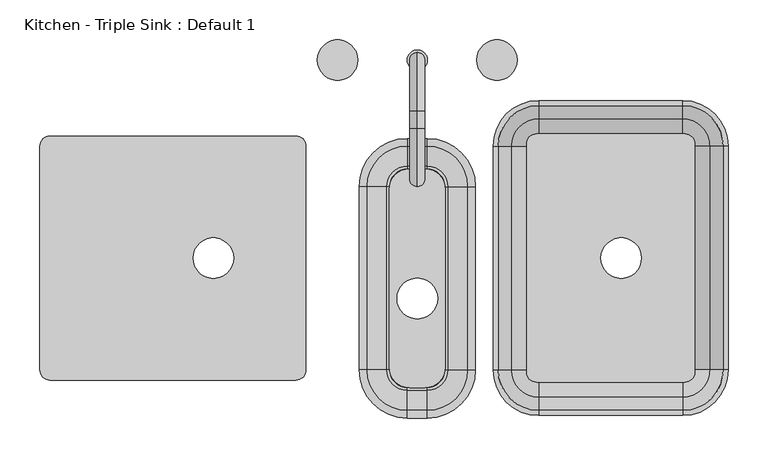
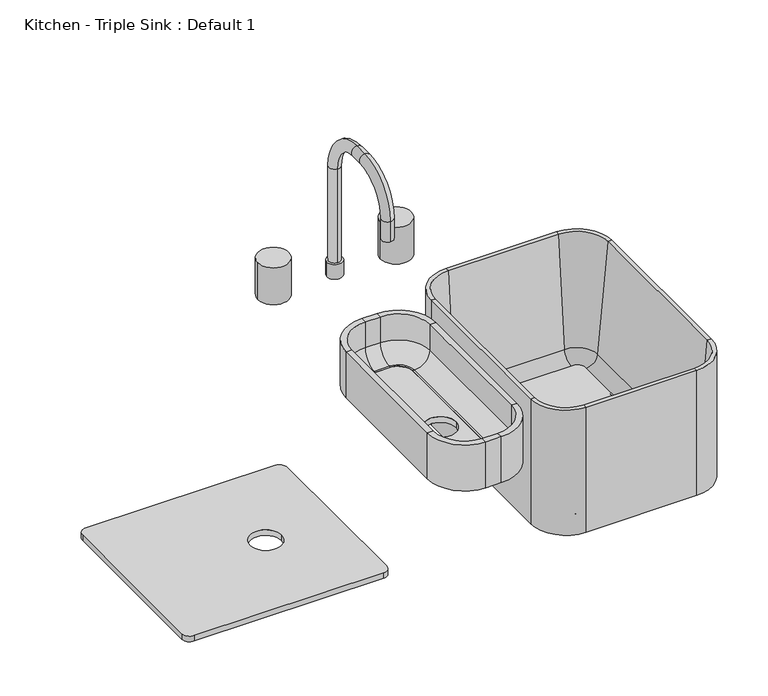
"""IFC4 building model written with IfcOpenShell, lengths in millimetres: flow terminal geometry, Kitchen - Triple Sink : Default 1."""

from ifc_helpers import new_model, si_unit, point, frame, frame_2d, origin, place, context, project, spatial, polyline, circle_curve, ellipse_curve, trimmed, segment, composite_curve, outline, extrude, source, transform, mapped, element, save
from ifc_brep_helpers import plane_surface, cylinder_surface, revolved_surface, advanced_brep


def kitchen_triple_sink_default_1_10f32469(model_context):
    return source(origin(), model_context, "Body", "SolidModel", [
        extrude(outline(composite_curve([segment(trimmed(circle_curve(frame_2d((166.0186503, 48.425)), 25.4), [point((166.0186503, 73.825))], [point((191.4186503, 48.425))], False, "CARTESIAN"), True, "CONTINUOUS"), segment(polyline([(191.4186503, 48.425), (191.4186503, -175.425)]), True, "CONTINUOUS"), segment(trimmed(circle_curve(frame_2d((166.0186503, -175.425)), 25.4), [point((191.4186503, -175.425))], [point((166.0186503, -200.825))], False, "CARTESIAN"), True, "CONTINUOUS"), segment(polyline([(166.0186503, -200.825), (146.9686503, -200.825)]), True, "CONTINUOUS"), segment(trimmed(circle_curve(frame_2d((146.9686503, -175.425)), 25.4), [point((146.9686503, -200.825))], [point((121.5686503, -175.425))], False, "CARTESIAN"), True, "CONTINUOUS"), segment(polyline([(121.5686503, -175.425), (121.5686503, 48.425)]), True, "CONTINUOUS"), segment(trimmed(circle_curve(frame_2d((146.9686503, 48.425)), 25.4), [point((121.5686503, 48.425))], [point((146.9686503, 73.825))], False, "CARTESIAN"), True, "CONTINUOUS"), segment(polyline([(146.9686503, 73.825), (166.0186503, 73.825)]), True, "CONTINUOUS")], self_intersect=False), holes=[composite_curve([segment(trimmed(circle_curve(frame_2d((156.4936503, -88.9)), 25.4), [point((131.0936503, -88.9))], [point((181.8936503, -88.9))], True, "CARTESIAN"), True, "CONTINUOUS"), segment(trimmed(circle_curve(frame_2d((156.4936503, -88.9)), 25.4), [point((181.8936503, -88.9))], [point((131.0936503, -88.9))], True, "CARTESIAN"), True, "CONTINUOUS")], self_intersect=False)]), frame((0.0, 0.0, 835.025), z_axis=(0.0, 0.0, 1.0), x_axis=(1.0, 0.0, 0.0)), (0.0, 0.0, 1.0), 9.525),
        advanced_brep(
        [(219.9936503, 51.6, 914.4), (169.1936503, 102.4, 914.4), (169.1936503, 102.4, 869.95), (219.9936503, 51.6, 869.95), (229.5186503, 51.6, 914.4), (169.1936503, 111.925, 914.4), (229.5186503, 51.6, 835.025), (169.1936503, 111.925, 835.025), (191.4186503, 51.6, 835.025), (169.1936503, 73.825, 835.025), (191.4186503, 51.6, 844.55), (169.1936503, 73.825, 844.55), (194.5936503, 51.6, 844.55), (169.1936503, 77.0, 844.55), (219.9936503, -178.6, 869.95), (219.9936503, -178.6, 914.4), (229.5186503, -178.6, 914.4), (229.5186503, -178.6, 835.025), (191.4186503, -178.6, 835.025), (191.4186503, -178.6, 844.55), (194.5936503, -178.6, 844.55), (169.1936503, -229.4, 914.4), (169.1936503, -229.4, 869.95), (169.1936503, -238.925, 914.4), (169.1936503, -238.925, 835.025), (169.1936503, -200.825, 835.025), (169.1936503, -200.825, 844.55), (169.1936503, -204.0, 844.55), (143.7936503, -229.4, 869.95), (143.7936503, -229.4, 914.4), (143.7936503, -238.925, 914.4), (143.7936503, -238.925, 835.025), (143.7936503, -200.825, 835.025), (143.7936503, -200.825, 844.55), (143.7936503, -204.0, 844.55), (92.9936503, -178.6, 914.4), (92.9936503, -178.6, 869.95), (83.4686503, -178.6, 914.4), (83.4686503, -178.6, 835.025), (121.5686503, -178.6, 835.025), (121.5686503, -178.6, 844.55), (118.3936503, -178.6, 844.55), (92.9936503, 51.6, 869.95), (92.9936503, 51.6, 914.4), (83.4686503, 51.6, 914.4), (83.4686503, 51.6, 835.025), (121.5686503, 51.6, 835.025), (121.5686503, 51.6, 844.55), (118.3936503, 51.6, 844.55), (143.7936503, 102.4, 914.4), (143.7936503, 102.4, 869.95), (143.7936503, 111.925, 914.4), (143.7936503, 111.925, 835.025), (143.7936503, 73.825, 835.025), (143.7936503, 73.825, 844.55), (143.7936503, 77.0, 844.55)],
        [
            (0, 1, circle_curve(frame((169.1936503, 51.6, 914.4), z_axis=(0.0, 0.0, 1.0), x_axis=(0.0, 1.0, 0.0)), 50.8)),
            (1, 2),
            (2, 3, circle_curve(frame((169.1936503, 51.6, 869.95), z_axis=(0.0, 0.0, -1.0), x_axis=(0.0, 1.0, 0.0)), 50.8)),
            (3, 0),
            (4, 5, circle_curve(frame((169.1936503, 51.6, 914.4), z_axis=(0.0, 0.0, 1.0), x_axis=(0.0, 1.0, 0.0)), 60.325)),
            (5, 1),
            (0, 4),
            (6, 7, circle_curve(frame((169.1936503, 51.6, 835.025), z_axis=(0.0, 0.0, 1.0), x_axis=(0.0, 1.0, 0.0)), 60.325)),
            (7, 5),
            (4, 6),
            (8, 9, circle_curve(frame((169.1936503, 51.6, 835.025), z_axis=(0.0, 0.0, 1.0), x_axis=(0.0, 1.0, 0.0)), 22.225)),
            (9, 7),
            (6, 8),
            (10, 11, circle_curve(frame((169.1936503, 51.6, 844.55), z_axis=(0.0, 0.0, 1.0), x_axis=(0.0, 1.0, 0.0)), 22.225)),
            (11, 9),
            (8, 10),
            (12, 13, circle_curve(frame((169.1936503, 51.6, 844.55), z_axis=(0.0, 0.0, 1.0), x_axis=(0.0, 1.0, 0.0)), 25.4)),
            (13, 11),
            (10, 12),
            (2, 13, circle_curve(frame((169.1936503, 77.0, 869.95), z_axis=(-1.0, 0.0, 0.0), x_axis=(0.0, 1.0, 0.0)), 25.4)),
            (12, 3, circle_curve(frame((194.5936503, 51.6, 869.95), z_axis=(0.0, -1.0, 0.0), x_axis=(1.0, 0.0, 0.0)), 25.4)),
            (3, 14),
            (14, 15),
            (15, 0),
            (15, 16),
            (16, 4),
            (16, 17),
            (17, 6),
            (17, 18),
            (18, 8),
            (18, 19),
            (19, 10),
            (19, 20),
            (20, 12),
            (20, 14, circle_curve(frame((194.5936503, -178.6, 869.95), z_axis=(0.0, -1.0, 0.0), x_axis=(1.0, 0.0, 0.0)), 25.4)),
            (21, 15, circle_curve(frame((169.1936503, -178.6, 914.4), z_axis=(0.0, 0.0, 1.0), x_axis=(1.0, 0.0, 0.0)), 50.8)),
            (14, 22, circle_curve(frame((169.1936503, -178.6, 869.95), z_axis=(0.0, 0.0, -1.0), x_axis=(1.0, 0.0, 0.0)), 50.8)),
            (22, 21),
            (23, 16, circle_curve(frame((169.1936503, -178.6, 914.4), z_axis=(0.0, 0.0, 1.0), x_axis=(1.0, 0.0, 0.0)), 60.325)),
            (21, 23),
            (24, 17, circle_curve(frame((169.1936503, -178.6, 835.025), z_axis=(0.0, 0.0, 1.0), x_axis=(1.0, 0.0, 0.0)), 60.325)),
            (23, 24),
            (25, 18, circle_curve(frame((169.1936503, -178.6, 835.025), z_axis=(0.0, 0.0, 1.0), x_axis=(1.0, 0.0, 0.0)), 22.225)),
            (24, 25),
            (26, 19, circle_curve(frame((169.1936503, -178.6, 844.55), z_axis=(0.0, 0.0, 1.0), x_axis=(1.0, 0.0, 0.0)), 22.225)),
            (25, 26),
            (27, 20, circle_curve(frame((169.1936503, -178.6, 844.55), z_axis=(0.0, 0.0, 1.0), x_axis=(1.0, 0.0, 0.0)), 25.4)),
            (26, 27),
            (27, 22, circle_curve(frame((169.1936503, -204.0, 869.95), z_axis=(-1.0, 0.0, 0.0), x_axis=(0.0, -1.0, 0.0)), 25.4)),
            (22, 28),
            (28, 29),
            (29, 21),
            (29, 30),
            (30, 23),
            (30, 31),
            (31, 24),
            (31, 32),
            (32, 25),
            (32, 33),
            (33, 26),
            (33, 34),
            (34, 27),
            (34, 28, circle_curve(frame((143.7936503, -204.0, 869.95), z_axis=(-1.0, 0.0, 0.0), x_axis=(0.0, -1.0, 0.0)), 25.4)),
            (35, 29, circle_curve(frame((143.7936503, -178.6, 914.4), z_axis=(0.0, 0.0, 1.0), x_axis=(0.0, -1.0, 0.0)), 50.8)),
            (28, 36, circle_curve(frame((143.7936503, -178.6, 869.95), z_axis=(0.0, 0.0, -1.0), x_axis=(0.0, -1.0, 0.0)), 50.8)),
            (36, 35),
            (37, 30, circle_curve(frame((143.7936503, -178.6, 914.4), z_axis=(0.0, 0.0, 1.0), x_axis=(0.0, -1.0, 0.0)), 60.325)),
            (35, 37),
            (38, 31, circle_curve(frame((143.7936503, -178.6, 835.025), z_axis=(0.0, 0.0, 1.0), x_axis=(0.0, -1.0, 0.0)), 60.325)),
            (37, 38),
            (39, 32, circle_curve(frame((143.7936503, -178.6, 835.025), z_axis=(0.0, 0.0, 1.0), x_axis=(0.0, -1.0, 0.0)), 22.225)),
            (38, 39),
            (40, 33, circle_curve(frame((143.7936503, -178.6, 844.55), z_axis=(0.0, 0.0, 1.0), x_axis=(0.0, -1.0, 0.0)), 22.225)),
            (39, 40),
            (41, 34, circle_curve(frame((143.7936503, -178.6, 844.55), z_axis=(0.0, 0.0, 1.0), x_axis=(0.0, -1.0, 0.0)), 25.4)),
            (40, 41),
            (41, 36, circle_curve(frame((118.3936503, -178.6, 869.95), z_axis=(0.0, 1.0, 0.0), x_axis=(-1.0, 0.0, 0.0)), 25.4)),
            (36, 42),
            (42, 43),
            (43, 35),
            (43, 44),
            (44, 37),
            (44, 45),
            (45, 38),
            (45, 46),
            (46, 39),
            (46, 47),
            (47, 40),
            (47, 48),
            (48, 41),
            (48, 42, circle_curve(frame((118.3936503, 51.6, 869.95), z_axis=(0.0, 1.0, 0.0), x_axis=(-1.0, 0.0, 0.0)), 25.4)),
            (49, 43, circle_curve(frame((143.7936503, 51.6, 914.4), z_axis=(0.0, 0.0, 1.0), x_axis=(-1.0, 0.0, 0.0)), 50.8)),
            (42, 50, circle_curve(frame((143.7936503, 51.6, 869.95), z_axis=(0.0, 0.0, -1.0), x_axis=(-1.0, 0.0, 0.0)), 50.8)),
            (50, 49),
            (51, 44, circle_curve(frame((143.7936503, 51.6, 914.4), z_axis=(0.0, 0.0, 1.0), x_axis=(-1.0, 0.0, 0.0)), 60.325)),
            (49, 51),
            (52, 45, circle_curve(frame((143.7936503, 51.6, 835.025), z_axis=(0.0, 0.0, 1.0), x_axis=(-1.0, 0.0, 0.0)), 60.325)),
            (51, 52),
            (53, 46, circle_curve(frame((143.7936503, 51.6, 835.025), z_axis=(0.0, 0.0, 1.0), x_axis=(-1.0, 0.0, 0.0)), 22.225)),
            (52, 53),
            (54, 47, circle_curve(frame((143.7936503, 51.6, 844.55), z_axis=(0.0, 0.0, 1.0), x_axis=(-1.0, 0.0, 0.0)), 22.225)),
            (53, 54),
            (55, 48, circle_curve(frame((143.7936503, 51.6, 844.55), z_axis=(0.0, 0.0, 1.0), x_axis=(-1.0, 0.0, 0.0)), 25.4)),
            (54, 55),
            (55, 50, circle_curve(frame((143.7936503, 77.0, 869.95), z_axis=(1.0, 0.0, 0.0), x_axis=(0.0, 1.0, 0.0)), 25.4)),
            (50, 2),
            (1, 49),
            (5, 51),
            (7, 52),
            (9, 53),
            (11, 54),
            (13, 55),
        ],
        [
            revolved_surface(polyline([(169.1936503, 102.4, 869.95), (169.1936503, 102.4, 914.4)]), (169.1936503, 51.6, 14.4), (0.0, 0.0, -1.0)),
            plane_surface(frame((169.1936503, 51.6, 914.4), z_axis=(0.0, 0.0, 1.0), x_axis=(0.0, 1.0, 0.0))),
            cylinder_surface(frame((169.1936503, 51.6, 14.4), z_axis=(0.0, 0.0, -1.0), x_axis=(0.0, 1.0, 0.0)), 60.325),
            plane_surface(frame((169.1936503, 51.6, 835.025), z_axis=(0.0, 0.0, -1.0), x_axis=(0.0, 1.0, 0.0))),
            revolved_surface(polyline([(169.1936503, 73.825, 835.025), (169.1936503, 73.825, 844.55)]), (169.1936503, 51.6, 14.4), (0.0, 0.0, -1.0)),
            plane_surface(frame((169.1936503, 51.6, 844.55), z_axis=(0.0, 0.0, 1.0), x_axis=(0.0, 1.0, 0.0))),
            revolved_surface(trimmed(ellipse_curve(frame((169.1936503, 77.0, 869.95), z_axis=(1.0, 0.0, 0.0), x_axis=(0.0, 1.0, 0.0)), 25.4, 25.4), [point((169.1936503, 77.0, 844.55))], [point((169.1936503, 102.4, 869.95))], True, "CARTESIAN"), (169.1936503, 51.6, 14.4), (0.0, 0.0, -1.0)),
            plane_surface(frame((219.9936503, 51.6, 869.95), z_axis=(-1.0, 0.0, 0.0), x_axis=(0.0, -1.0, 0.0))),
            plane_surface(frame((219.9936503, 51.6, 914.4), z_axis=(0.0, 0.0, 1.0), x_axis=(0.0, -1.0, 0.0))),
            plane_surface(frame((229.5186503, 51.6, 914.4), z_axis=(1.0, 0.0, 0.0), x_axis=(0.0, -1.0, 0.0))),
            plane_surface(frame((229.5186503, 51.6, 835.025), z_axis=(0.0, 0.0, -1.0), x_axis=(0.0, -1.0, 0.0))),
            plane_surface(frame((191.4186503, 51.6, 835.025), z_axis=(-1.0, 0.0, 0.0), x_axis=(0.0, -1.0, 0.0))),
            plane_surface(frame((191.4186503, 51.6, 844.55), z_axis=(0.0, 0.0, 1.0), x_axis=(0.0, -1.0, 0.0))),
            revolved_surface(polyline([(219.9936503, -178.6, 869.95), (219.9936503, 51.6, 869.95)]), (194.5936503, 51.6, 869.95), (0.0, -1.0, 0.0)),
            revolved_surface(polyline([(219.9936503, -178.6, 869.95), (219.9936503, -178.6, 914.4)]), (169.1936503, -178.6, 14.4), (0.0, 0.0, -1.0)),
            plane_surface(frame((169.1936503, -178.6, 914.4), z_axis=(0.0, 0.0, 1.0), x_axis=(1.0, 0.0, 0.0))),
            cylinder_surface(frame((169.1936503, -178.6, 14.4), z_axis=(0.0, 0.0, -1.0), x_axis=(1.0, 0.0, 0.0)), 60.325),
            plane_surface(frame((169.1936503, -178.6, 835.025), z_axis=(0.0, 0.0, -1.0), x_axis=(1.0, 0.0, 0.0))),
            revolved_surface(polyline([(191.4186503, -178.6, 835.025), (191.4186503, -178.6, 844.55)]), (169.1936503, -178.6, 14.4), (0.0, 0.0, -1.0)),
            plane_surface(frame((169.1936503, -178.6, 844.55), z_axis=(0.0, 0.0, 1.0), x_axis=(1.0, 0.0, 0.0))),
            revolved_surface(trimmed(ellipse_curve(frame((194.5936503, -178.6, 869.95), z_axis=(0.0, -1.0, 0.0), x_axis=(1.0, 0.0, 0.0)), 25.4, 25.4), [point((194.5936503, -178.6, 844.55))], [point((219.9936503, -178.6, 869.95))], True, "CARTESIAN"), (169.1936503, -178.6, 14.4), (0.0, 0.0, -1.0)),
            plane_surface(frame((169.1936503, -229.4, 869.95), z_axis=(0.0, 1.0, 0.0), x_axis=(-1.0, 0.0, 0.0))),
            plane_surface(frame((169.1936503, -229.4, 914.4), z_axis=(0.0, 0.0, 1.0), x_axis=(-1.0, 0.0, 0.0))),
            plane_surface(frame((169.1936503, -238.925, 914.4), z_axis=(0.0, -1.0, 0.0), x_axis=(-1.0, 0.0, 0.0))),
            plane_surface(frame((169.1936503, -238.925, 835.025), z_axis=(0.0, 0.0, -1.0), x_axis=(-1.0, 0.0, 0.0))),
            plane_surface(frame((169.1936503, -200.825, 835.025), z_axis=(0.0, 1.0, 0.0), x_axis=(-1.0, 0.0, 0.0))),
            plane_surface(frame((169.1936503, -200.825, 844.55), z_axis=(0.0, 0.0, 1.0), x_axis=(-1.0, 0.0, 0.0))),
            revolved_surface(polyline([(143.7936503, -229.4, 869.95), (169.1936503, -229.4, 869.95)]), (169.1936503, -204.0, 869.95), (-1.0, 0.0, 0.0)),
            revolved_surface(polyline([(143.7936503, -229.39999999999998, 869.95), (143.7936503, -229.39999999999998, 914.4)]), (143.7936503, -178.6, 14.4), (0.0, 0.0, -1.0)),
            plane_surface(frame((143.7936503, -178.6, 914.4), z_axis=(0.0, 0.0, 1.0), x_axis=(0.0, -1.0, 0.0))),
            cylinder_surface(frame((143.7936503, -178.6, 14.4), z_axis=(0.0, 0.0, -1.0), x_axis=(0.0, -1.0, 0.0)), 60.325),
            plane_surface(frame((143.7936503, -178.6, 835.025), z_axis=(0.0, 0.0, -1.0), x_axis=(0.0, -1.0, 0.0))),
            revolved_surface(polyline([(143.7936503, -200.825, 835.025), (143.7936503, -200.825, 844.55)]), (143.7936503, -178.6, 14.4), (0.0, 0.0, -1.0)),
            plane_surface(frame((143.7936503, -178.6, 844.55), z_axis=(0.0, 0.0, 1.0), x_axis=(0.0, -1.0, 0.0))),
            revolved_surface(trimmed(ellipse_curve(frame((143.7936503, -204.0, 869.95), z_axis=(-1.0, 0.0, 0.0), x_axis=(0.0, -1.0, 0.0)), 25.4, 25.4), [point((143.7936503, -204.0, 844.55))], [point((143.7936503, -229.4, 869.95))], True, "CARTESIAN"), (143.7936503, -178.6, 14.4), (0.0, 0.0, -1.0)),
            plane_surface(frame((92.9936503, -178.6, 869.95), z_axis=(1.0, 0.0, 0.0), x_axis=(0.0, 1.0, 0.0))),
            plane_surface(frame((92.9936503, -178.6, 914.4), z_axis=(0.0, 0.0, 1.0), x_axis=(0.0, 1.0, 0.0))),
            plane_surface(frame((83.4686503, -178.6, 914.4), z_axis=(-1.0, 0.0, 0.0), x_axis=(0.0, 1.0, 0.0))),
            plane_surface(frame((83.4686503, -178.6, 835.025), z_axis=(0.0, 0.0, -1.0), x_axis=(0.0, 1.0, 0.0))),
            plane_surface(frame((121.5686503, -178.6, 835.025), z_axis=(1.0, 0.0, 0.0), x_axis=(0.0, 1.0, 0.0))),
            plane_surface(frame((121.5686503, -178.6, 844.55), z_axis=(0.0, 0.0, 1.0), x_axis=(0.0, 1.0, 0.0))),
            revolved_surface(polyline([(92.99365030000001, 51.599999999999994, 869.95), (92.99365030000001, -178.6, 869.95)]), (118.3936503, -178.6, 869.95), (0.0, 1.0, 0.0)),
            revolved_surface(polyline([(92.9936503, 51.6, 869.95), (92.9936503, 51.6, 914.4)]), (143.7936503, 51.6, 14.4), (0.0, 0.0, -1.0)),
            plane_surface(frame((143.7936503, 51.6, 914.4), z_axis=(0.0, 0.0, 1.0), x_axis=(-1.0, 0.0, 0.0))),
            cylinder_surface(frame((143.7936503, 51.6, 14.4), z_axis=(0.0, 0.0, -1.0), x_axis=(-1.0, 0.0, 0.0)), 60.325),
            plane_surface(frame((143.7936503, 51.6, 835.025), z_axis=(0.0, 0.0, -1.0), x_axis=(-1.0, 0.0, 0.0))),
            revolved_surface(polyline([(121.5686503, 51.6, 835.025), (121.5686503, 51.6, 844.55)]), (143.7936503, 51.6, 14.4), (0.0, 0.0, -1.0)),
            plane_surface(frame((143.7936503, 51.6, 844.55), z_axis=(0.0, 0.0, 1.0), x_axis=(-1.0, 0.0, 0.0))),
            revolved_surface(trimmed(ellipse_curve(frame((118.3936503, 51.6, 869.95), z_axis=(0.0, 1.0, 0.0), x_axis=(-1.0, 0.0, 0.0)), 25.4, 25.4), [point((118.3936503, 51.6, 844.55))], [point((92.9936503, 51.6, 869.95))], True, "CARTESIAN"), (143.7936503, 51.6, 14.4), (0.0, 0.0, -1.0)),
            plane_surface(frame((143.7936503, 102.4, 869.95), z_axis=(0.0, -1.0, 0.0), x_axis=(1.0, 0.0, 0.0))),
            plane_surface(frame((143.7936503, 102.4, 914.4), z_axis=(0.0, 0.0, 1.0), x_axis=(1.0, 0.0, 0.0))),
            plane_surface(frame((143.7936503, 111.925, 914.4), z_axis=(0.0, 1.0, 0.0), x_axis=(1.0, 0.0, 0.0))),
            plane_surface(frame((143.7936503, 111.925, 835.025), z_axis=(0.0, 0.0, -1.0), x_axis=(1.0, 0.0, 0.0))),
            plane_surface(frame((143.7936503, 73.825, 835.025), z_axis=(0.0, -1.0, 0.0), x_axis=(1.0, 0.0, 0.0))),
            plane_surface(frame((143.7936503, 73.825, 844.55), z_axis=(0.0, 0.0, 1.0), x_axis=(1.0, 0.0, 0.0))),
            revolved_surface(polyline([(169.1936503, 102.4, 869.95), (143.7936503, 102.4, 869.95)]), (143.7936503, 77.0, 869.95), (1.0, 0.0, 0.0)),
        ],
        [
            (0, [[1, 2, 3, 4]]),
            (1, [[5, 6, -1, 7]]),
            (2, [[8, 9, -5, 10]]),
            (3, [[11, 12, -8, 13]]),
            (4, [[14, 15, -11, 16]]),
            (5, [[17, 18, -14, 19]]),
            (6, [[-3, 20, -17, 21]]),
            (7, [[-4, 22, 23, 24]]),
            (8, [[-7, -24, 25, 26]]),
            (9, [[-10, -26, 27, 28]]),
            (10, [[-13, -28, 29, 30]]),
            (11, [[-16, -30, 31, 32]]),
            (12, [[-19, -32, 33, 34]]),
            (13, [[-21, -34, 35, -22]]),
            (14, [[36, -23, 37, 38]]),
            (15, [[39, -25, -36, 40]]),
            (16, [[41, -27, -39, 42]]),
            (17, [[43, -29, -41, 44]]),
            (18, [[45, -31, -43, 46]]),
            (19, [[47, -33, -45, 48]]),
            (20, [[-37, -35, -47, 49]]),
            (21, [[-38, 50, 51, 52]]),
            (22, [[-40, -52, 53, 54]]),
            (23, [[-42, -54, 55, 56]]),
            (24, [[-44, -56, 57, 58]]),
            (25, [[-46, -58, 59, 60]]),
            (26, [[-48, -60, 61, 62]]),
            (27, [[-49, -62, 63, -50]]),
            (28, [[64, -51, 65, 66]]),
            (29, [[67, -53, -64, 68]]),
            (30, [[69, -55, -67, 70]]),
            (31, [[71, -57, -69, 72]]),
            (32, [[73, -59, -71, 74]]),
            (33, [[75, -61, -73, 76]]),
            (34, [[-65, -63, -75, 77]]),
            (35, [[-66, 78, 79, 80]]),
            (36, [[-68, -80, 81, 82]]),
            (37, [[-70, -82, 83, 84]]),
            (38, [[-72, -84, 85, 86]]),
            (39, [[-74, -86, 87, 88]]),
            (40, [[-76, -88, 89, 90]]),
            (41, [[-77, -90, 91, -78]]),
            (42, [[92, -79, 93, 94]]),
            (43, [[95, -81, -92, 96]]),
            (44, [[97, -83, -95, 98]]),
            (45, [[99, -85, -97, 100]]),
            (46, [[101, -87, -99, 102]]),
            (47, [[103, -89, -101, 104]]),
            (48, [[-93, -91, -103, 105]]),
            (49, [[-94, 106, -2, 107]]),
            (50, [[-96, -107, -6, 108]]),
            (51, [[-98, -108, -9, 109]]),
            (52, [[-100, -109, -12, 110]]),
            (53, [[-102, -110, -15, 111]]),
            (54, [[-104, -111, -18, 112]]),
            (55, [[-105, -112, -20, -106]]),
        ],
    ),
        extrude(outline(composite_curve([segment(polyline([(306.3052321, 117.6884182), (492.1947679, 117.6884182)]), True, "CONTINUOUS"), segment(trimmed(circle_curve(frame_2d((492.1947679, 104.9884182)), 12.7), [point((492.1947679, 117.6884182))], [point((504.8947679, 104.9884182))], False, "CARTESIAN"), True, "CONTINUOUS"), segment(polyline([(504.8947679, 104.9884182), (504.8947679, -181.1884182)]), True, "CONTINUOUS"), segment(trimmed(circle_curve(frame_2d((492.1947679, -181.1884182)), 12.7), [point((504.8947679, -181.1884182))], [point((492.1947679, -193.8884182))], False, "CARTESIAN"), True, "CONTINUOUS"), segment(polyline([(492.1947679, -193.8884182), (306.3052321, -193.8884182)]), True, "CONTINUOUS"), segment(trimmed(circle_curve(frame_2d((306.3052321, -181.1884182)), 12.7), [point((306.3052321, -193.8884182))], [point((293.6052321, -181.1884182))], False, "CARTESIAN"), True, "CONTINUOUS"), segment(polyline([(293.6052321, -181.1884182), (293.6052321, 104.9884182)]), True, "CONTINUOUS"), segment(trimmed(circle_curve(frame_2d((306.3052321, 104.9884182)), 12.7), [point((293.6052321, 104.9884182))], [point((306.3052321, 117.6884182))], False, "CARTESIAN"), True, "CONTINUOUS")], self_intersect=False), holes=[composite_curve([segment(trimmed(circle_curve(frame_2d((412.4436503, -38.1)), 25.4), [point((437.8436503, -38.1))], [point((387.0436503, -38.1))], True, "CARTESIAN"), True, "CONTINUOUS"), segment(trimmed(circle_curve(frame_2d((412.4436503, -38.1)), 25.4), [point((387.0436503, -38.1))], [point((437.8436503, -38.1))], True, "CARTESIAN"), True, "CONTINUOUS")], self_intersect=False)]), frame((0.0, 0.0, 698.5), z_axis=(0.0, 0.0, 1.0), x_axis=(1.0, 0.0, 0.0)), (0.0, 0.0, 1.0), 9.525),
        advanced_brep(
        [(258.0936503, 102.4, 914.4), (308.8936503, 153.2, 914.4), (308.8936503, 159.55, 914.4), (251.7436503, 102.4, 914.4), (274.6277231, 102.4, 725.4146831), (308.8936503, 136.6659272, 725.4146831), (293.6052321, 102.4, 708.025), (308.8936503, 117.6884182, 708.025), (296.1936503, 102.4, 708.025), (308.8936503, 115.1, 708.025), (296.1936503, 102.4, 698.5), (308.8936503, 115.1, 698.5), (251.7436503, 102.4, 698.5), (308.8936503, 159.55, 698.5), (251.7436503, -178.6, 914.4), (258.0936503, -178.6, 914.4), (274.6277231, -178.6, 725.4146831), (293.6052321, -178.6, 708.025), (296.1936503, -178.6, 708.025), (296.1936503, -178.6, 698.5), (251.7436503, -178.6, 698.5), (308.8936503, -229.4, 914.4), (308.8936503, -235.75, 914.4), (308.8936503, -212.8659272, 725.4146831), (308.8936503, -193.8884182, 708.025), (308.8936503, -191.3, 708.025), (308.8936503, -191.3, 698.5), (308.8936503, -235.75, 698.5), (489.6063497, -235.75, 914.4), (489.6063497, -229.4, 914.4), (489.6063497, -212.8659272, 725.4146831), (489.6063497, -193.8884182, 708.025), (489.6063497, -191.3, 708.025), (489.6063497, -191.3, 698.5), (489.6063497, -235.75, 698.5), (540.4063497, -178.6, 914.4), (546.7563497, -178.6, 914.4), (523.8722769, -178.6, 725.4146831), (504.8947679, -178.6, 708.025), (502.3063497, -178.6, 708.025), (502.3063497, -178.6, 698.5), (546.7563497, -178.6, 698.5), (546.7563497, 102.4, 914.4), (540.4063497, 102.4, 914.4), (523.8722769, 102.4, 725.4146831), (504.8947679, 102.4, 708.025), (502.3063497, 102.4, 708.025), (502.3063497, 102.4, 698.5), (546.7563497, 102.4, 698.5), (489.6063497, 153.2, 914.4), (489.6063497, 159.55, 914.4), (489.6063497, 136.6659272, 725.4146831), (489.6063497, 117.6884182, 708.025), (489.6063497, 115.1, 708.025), (489.6063497, 115.1, 698.5), (489.6063497, 159.55, 698.5)],
        [
            (0, 1, circle_curve(frame((308.8936503, 102.4, 914.4), z_axis=(0.0, 0.0, -1.0), x_axis=(0.0, 1.0, 0.0)), 50.8)),
            (1, 2),
            (2, 3, circle_curve(frame((308.8936503, 102.4, 914.4), z_axis=(0.0, 0.0, 1.0), x_axis=(0.0, 1.0, 0.0)), 57.15)),
            (3, 0),
            (4, 5, circle_curve(frame((308.8936503, 102.4, 725.4146831), z_axis=(0.0, 0.0, -1.0), x_axis=(0.0, 1.0, 0.0)), 34.2659272)),
            (5, 1),
            (0, 4),
            (6, 7, circle_curve(frame((308.8936503, 102.4, 708.025), z_axis=(0.0, 0.0, -1.0), x_axis=(0.0, 1.0, 0.0)), 15.2884182)),
            (7, 5, circle_curve(frame((308.8936503, 117.6884182, 727.075), z_axis=(1.0, 0.0, 0.0), x_axis=(0.0, -1.0, 0.0)), 19.05)),
            (4, 6, circle_curve(frame((293.6052321, 102.4, 727.075), z_axis=(0.0, -1.0, 0.0), x_axis=(1.0, 0.0, 0.0)), 19.05)),
            (8, 9, circle_curve(frame((308.8936503, 102.4, 708.025), z_axis=(0.0, 0.0, -1.0), x_axis=(0.0, 1.0, 0.0)), 12.7)),
            (9, 7),
            (6, 8),
            (10, 11, circle_curve(frame((308.8936503, 102.4, 698.5), z_axis=(0.0, 0.0, -1.0), x_axis=(0.0, 1.0, 0.0)), 12.7)),
            (11, 9),
            (8, 10),
            (12, 13, circle_curve(frame((308.8936503, 102.4, 698.5), z_axis=(0.0, 0.0, -1.0), x_axis=(0.0, 1.0, 0.0)), 57.15)),
            (13, 11),
            (10, 12),
            (2, 13),
            (12, 3),
            (3, 14),
            (14, 15),
            (15, 0),
            (15, 16),
            (16, 4),
            (16, 17, circle_curve(frame((293.6052321, -178.6, 727.075), z_axis=(0.0, -1.0, 0.0), x_axis=(1.0, 0.0, 0.0)), 19.05)),
            (17, 6),
            (17, 18),
            (18, 8),
            (18, 19),
            (19, 10),
            (19, 20),
            (20, 12),
            (20, 14),
            (21, 15, circle_curve(frame((308.8936503, -178.6, 914.4), z_axis=(0.0, 0.0, -1.0), x_axis=(-1.0, 0.0, 0.0)), 50.8)),
            (14, 22, circle_curve(frame((308.8936503, -178.6, 914.4), z_axis=(0.0, 0.0, 1.0), x_axis=(-1.0, 0.0, 0.0)), 57.15)),
            (22, 21),
            (23, 16, circle_curve(frame((308.8936503, -178.6, 725.4146831), z_axis=(0.0, 0.0, -1.0), x_axis=(-1.0, 0.0, 0.0)), 34.2659272)),
            (21, 23),
            (24, 17, circle_curve(frame((308.8936503, -178.6, 708.025), z_axis=(0.0, 0.0, -1.0), x_axis=(-1.0, 0.0, 0.0)), 15.2884182)),
            (23, 24, circle_curve(frame((308.8936503, -193.8884182, 727.075), z_axis=(1.0, 0.0, 0.0), x_axis=(0.0, 1.0, 0.0)), 19.05)),
            (25, 18, circle_curve(frame((308.8936503, -178.6, 708.025), z_axis=(0.0, 0.0, -1.0), x_axis=(-1.0, 0.0, 0.0)), 12.7)),
            (24, 25),
            (26, 19, circle_curve(frame((308.8936503, -178.6, 698.5), z_axis=(0.0, 0.0, -1.0), x_axis=(-1.0, 0.0, 0.0)), 12.7)),
            (25, 26),
            (27, 20, circle_curve(frame((308.8936503, -178.6, 698.5), z_axis=(0.0, 0.0, -1.0), x_axis=(-1.0, 0.0, 0.0)), 57.15)),
            (26, 27),
            (27, 22),
            (22, 28),
            (28, 29),
            (29, 21),
            (29, 30),
            (30, 23),
            (30, 31, circle_curve(frame((489.6063497, -193.8884182, 727.075), z_axis=(1.0, 0.0, 0.0), x_axis=(0.0, 1.0, 0.0)), 19.05)),
            (31, 24),
            (31, 32),
            (32, 25),
            (32, 33),
            (33, 26),
            (33, 34),
            (34, 27),
            (34, 28),
            (35, 29, circle_curve(frame((489.6063497, -178.6, 914.4), z_axis=(0.0, 0.0, -1.0), x_axis=(0.0, -1.0, 0.0)), 50.8)),
            (28, 36, circle_curve(frame((489.6063497, -178.6, 914.4), z_axis=(0.0, 0.0, 1.0), x_axis=(0.0, -1.0, 0.0)), 57.15)),
            (36, 35),
            (37, 30, circle_curve(frame((489.6063497, -178.6, 725.4146831), z_axis=(0.0, 0.0, -1.0), x_axis=(0.0, -1.0, 0.0)), 34.2659272)),
            (35, 37),
            (38, 31, circle_curve(frame((489.6063497, -178.6, 708.025), z_axis=(0.0, 0.0, -1.0), x_axis=(0.0, -1.0, 0.0)), 15.2884182)),
            (37, 38, circle_curve(frame((504.8947679, -178.6, 727.075), z_axis=(0.0, 1.0, 0.0), x_axis=(-1.0, 0.0, 0.0)), 19.05)),
            (39, 32, circle_curve(frame((489.6063497, -178.6, 708.025), z_axis=(0.0, 0.0, -1.0), x_axis=(0.0, -1.0, 0.0)), 12.7)),
            (38, 39),
            (40, 33, circle_curve(frame((489.6063497, -178.6, 698.5), z_axis=(0.0, 0.0, -1.0), x_axis=(0.0, -1.0, 0.0)), 12.7)),
            (39, 40),
            (41, 34, circle_curve(frame((489.6063497, -178.6, 698.5), z_axis=(0.0, 0.0, -1.0), x_axis=(0.0, -1.0, 0.0)), 57.15)),
            (40, 41),
            (41, 36),
            (36, 42),
            (42, 43),
            (43, 35),
            (43, 44),
            (44, 37),
            (44, 45, circle_curve(frame((504.8947679, 102.4, 727.075), z_axis=(0.0, 1.0, 0.0), x_axis=(-1.0, 0.0, 0.0)), 19.05)),
            (45, 38),
            (45, 46),
            (46, 39),
            (46, 47),
            (47, 40),
            (47, 48),
            (48, 41),
            (48, 42),
            (49, 43, circle_curve(frame((489.6063497, 102.4, 914.4), z_axis=(0.0, 0.0, -1.0), x_axis=(1.0, 0.0, 0.0)), 50.8)),
            (42, 50, circle_curve(frame((489.6063497, 102.4, 914.4), z_axis=(0.0, 0.0, 1.0), x_axis=(1.0, 0.0, 0.0)), 57.15)),
            (50, 49),
            (51, 44, circle_curve(frame((489.6063497, 102.4, 725.4146831), z_axis=(0.0, 0.0, -1.0), x_axis=(1.0, 0.0, 0.0)), 34.2659272)),
            (49, 51),
            (52, 45, circle_curve(frame((489.6063497, 102.4, 708.025), z_axis=(0.0, 0.0, -1.0), x_axis=(1.0, 0.0, 0.0)), 15.2884182)),
            (51, 52, circle_curve(frame((489.6063497, 117.6884182, 727.075), z_axis=(-1.0, 0.0, 0.0), x_axis=(0.0, -1.0, 0.0)), 19.05)),
            (53, 46, circle_curve(frame((489.6063497, 102.4, 708.025), z_axis=(0.0, 0.0, -1.0), x_axis=(1.0, 0.0, 0.0)), 12.7)),
            (52, 53),
            (54, 47, circle_curve(frame((489.6063497, 102.4, 698.5), z_axis=(0.0, 0.0, -1.0), x_axis=(1.0, 0.0, 0.0)), 12.7)),
            (53, 54),
            (55, 48, circle_curve(frame((489.6063497, 102.4, 698.5), z_axis=(0.0, 0.0, -1.0), x_axis=(1.0, 0.0, 0.0)), 57.15)),
            (54, 55),
            (55, 50),
            (50, 2),
            (1, 49),
            (5, 51),
            (7, 52),
            (9, 53),
            (11, 54),
            (13, 55),
        ],
        [
            plane_surface(frame((308.8936503, 102.4, 914.4), z_axis=(0.0, 0.0, 1.0), x_axis=(0.0, 1.0, 0.0))),
            revolved_surface(polyline([(308.8936503, 153.2, 914.4), (308.8936503, 136.6659272, 725.4146831)]), (308.8936503, 102.4, 14.4), (0.0, 0.0, 1.0)),
            revolved_surface(trimmed(ellipse_curve(frame((308.8936503, 117.6884182, 727.075), z_axis=(-1.0, 0.0, 0.0), x_axis=(0.0, -1.0, 0.0)), 19.05, 19.05), [point((308.8936503, 136.6659272, 725.4146831))], [point((308.8936503, 117.6884182, 708.025))], True, "CARTESIAN"), (308.8936503, 102.4, 14.4), (0.0, 0.0, 1.0)),
            plane_surface(frame((308.8936503, 102.4, 708.025), z_axis=(0.0, 0.0, 1.0), x_axis=(0.0, 1.0, 0.0))),
            revolved_surface(polyline([(308.8936503, 115.10000000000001, 708.025), (308.8936503, 115.10000000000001, 698.5)]), (308.8936503, 102.4, 14.4), (0.0, 0.0, 1.0)),
            plane_surface(frame((308.8936503, 102.4, 698.5), z_axis=(0.0, 0.0, -1.0), x_axis=(0.0, 1.0, 0.0))),
            cylinder_surface(frame((308.8936503, 102.4, 14.4), z_axis=(0.0, 0.0, 1.0), x_axis=(0.0, 1.0, 0.0)), 57.15),
            plane_surface(frame((251.7436503, 102.4, 914.4), z_axis=(0.0, 0.0, 1.0), x_axis=(0.0, -1.0, 0.0))),
            plane_surface(frame((258.0936503, 102.4, 914.4), z_axis=(0.9961946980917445, 0.0, 0.08715574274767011), x_axis=(0.0, -1.0, 0.0))),
            revolved_surface(polyline([(312.65523210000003, -178.6, 727.075), (312.65523210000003, 102.4, 727.075)]), (293.6052321, 102.4, 727.075), (0.0, -1.0, 0.0)),
            plane_surface(frame((293.6052321, 102.4, 708.025), z_axis=(0.0, 0.0, 1.0), x_axis=(0.0, -1.0, 0.0))),
            plane_surface(frame((296.1936503, 102.4, 708.025), z_axis=(1.0, 0.0, 0.0), x_axis=(0.0, -1.0, 0.0))),
            plane_surface(frame((296.1936503, 102.4, 698.5), z_axis=(0.0, 0.0, -1.0), x_axis=(0.0, -1.0, 0.0))),
            plane_surface(frame((251.7436503, 102.4, 698.5), z_axis=(-1.0, 0.0, 0.0), x_axis=(0.0, -1.0, 0.0))),
            plane_surface(frame((308.8936503, -178.6, 914.4), z_axis=(0.0, 0.0, 1.0), x_axis=(-1.0, 0.0, 0.0))),
            revolved_surface(polyline([(258.0936503, -178.6, 914.4), (274.6277231, -178.6, 725.4146831)]), (308.8936503, -178.6, 14.4), (0.0, 0.0, 1.0)),
            revolved_surface(trimmed(ellipse_curve(frame((293.6052321, -178.6, 727.075), z_axis=(0.0, -1.0, 0.0), x_axis=(1.0, 0.0, 0.0)), 19.05, 19.05), [point((274.6277231, -178.6, 725.4146831))], [point((293.6052321, -178.6, 708.025))], True, "CARTESIAN"), (308.8936503, -178.6, 14.4), (0.0, 0.0, 1.0)),
            plane_surface(frame((308.8936503, -178.6, 708.025), z_axis=(0.0, 0.0, 1.0), x_axis=(-1.0, 0.0, 0.0))),
            revolved_surface(polyline([(296.1936503, -178.6, 708.025), (296.1936503, -178.6, 698.5)]), (308.8936503, -178.6, 14.4), (0.0, 0.0, 1.0)),
            plane_surface(frame((308.8936503, -178.6, 698.5), z_axis=(0.0, 0.0, -1.0), x_axis=(-1.0, 0.0, 0.0))),
            cylinder_surface(frame((308.8936503, -178.6, 14.4), z_axis=(0.0, 0.0, 1.0), x_axis=(-1.0, 0.0, 0.0)), 57.15),
            plane_surface(frame((308.8936503, -235.75, 914.4), z_axis=(0.0, 0.0, 1.0), x_axis=(1.0, 0.0, 0.0))),
            plane_surface(frame((308.8936503, -229.4, 914.4), z_axis=(0.0, 0.9961946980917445, 0.08715574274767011), x_axis=(1.0, 0.0, 0.0))),
            revolved_surface(polyline([(489.6063497, -174.83841819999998, 727.075), (308.8936503, -174.83841819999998, 727.075)]), (308.8936503, -193.8884182, 727.075), (1.0, 0.0, 0.0)),
            plane_surface(frame((308.8936503, -193.8884182, 708.025), z_axis=(0.0, 0.0, 1.0), x_axis=(1.0, 0.0, 0.0))),
            plane_surface(frame((308.8936503, -191.3, 708.025), z_axis=(0.0, 1.0, 0.0), x_axis=(1.0, 0.0, 0.0))),
            plane_surface(frame((308.8936503, -191.3, 698.5), z_axis=(0.0, 0.0, -1.0), x_axis=(1.0, 0.0, 0.0))),
            plane_surface(frame((308.8936503, -235.75, 698.5), z_axis=(0.0, -1.0, 0.0), x_axis=(1.0, 0.0, 0.0))),
            plane_surface(frame((489.6063497, -178.6, 914.4), z_axis=(0.0, 0.0, 1.0), x_axis=(0.0, -1.0, 0.0))),
            revolved_surface(polyline([(489.6063497, -229.4, 914.4), (489.6063497, -212.8659272, 725.4146831)]), (489.6063497, -178.6, 14.4), (0.0, 0.0, 1.0)),
            revolved_surface(trimmed(ellipse_curve(frame((489.6063497, -193.8884182, 727.075), z_axis=(1.0, 0.0, 0.0), x_axis=(0.0, 1.0, 0.0)), 19.05, 19.05), [point((489.6063497, -212.8659272, 725.4146831))], [point((489.6063497, -193.8884182, 708.025))], True, "CARTESIAN"), (489.6063497, -178.6, 14.4), (0.0, 0.0, 1.0)),
            plane_surface(frame((489.6063497, -178.6, 708.025), z_axis=(0.0, 0.0, 1.0), x_axis=(0.0, -1.0, 0.0))),
            revolved_surface(polyline([(489.6063497, -191.29999999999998, 708.025), (489.6063497, -191.29999999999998, 698.5)]), (489.6063497, -178.6, 14.4), (0.0, 0.0, 1.0)),
            plane_surface(frame((489.6063497, -178.6, 698.5), z_axis=(0.0, 0.0, -1.0), x_axis=(0.0, -1.0, 0.0))),
            cylinder_surface(frame((489.6063497, -178.6, 14.4), z_axis=(0.0, 0.0, 1.0), x_axis=(0.0, -1.0, 0.0)), 57.15),
            plane_surface(frame((546.7563497, -178.6, 914.4), z_axis=(0.0, 0.0, 1.0), x_axis=(0.0, 1.0, 0.0))),
            plane_surface(frame((540.4063497, -178.6, 914.4), z_axis=(-0.9961946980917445, 0.0, 0.08715574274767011), x_axis=(0.0, 1.0, 0.0))),
            revolved_surface(polyline([(485.84476789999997, 102.4, 727.075), (485.84476789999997, -178.6, 727.075)]), (504.8947679, -178.6, 727.075), (0.0, 1.0, 0.0)),
            plane_surface(frame((504.8947679, -178.6, 708.025), z_axis=(0.0, 0.0, 1.0), x_axis=(0.0, 1.0, 0.0))),
            plane_surface(frame((502.3063497, -178.6, 708.025), z_axis=(-1.0, 0.0, 0.0), x_axis=(0.0, 1.0, 0.0))),
            plane_surface(frame((502.3063497, -178.6, 698.5), z_axis=(0.0, 0.0, -1.0), x_axis=(0.0, 1.0, 0.0))),
            plane_surface(frame((546.7563497, -178.6, 698.5), z_axis=(1.0, 0.0, 0.0), x_axis=(0.0, 1.0, 0.0))),
            plane_surface(frame((489.6063497, 102.4, 914.4), z_axis=(0.0, 0.0, 1.0), x_axis=(1.0, 0.0, 0.0))),
            revolved_surface(polyline([(540.4063497, 102.4, 914.4), (523.8722769, 102.4, 725.4146831)]), (489.6063497, 102.4, 14.4), (0.0, 0.0, 1.0)),
            revolved_surface(trimmed(ellipse_curve(frame((504.8947679, 102.4, 727.075), z_axis=(0.0, 1.0, 0.0), x_axis=(-1.0, 0.0, 0.0)), 19.05, 19.05), [point((523.8722769, 102.4, 725.4146831))], [point((504.8947679, 102.4, 708.025))], True, "CARTESIAN"), (489.6063497, 102.4, 14.4), (0.0, 0.0, 1.0)),
            plane_surface(frame((489.6063497, 102.4, 708.025), z_axis=(0.0, 0.0, 1.0), x_axis=(1.0, 0.0, 0.0))),
            revolved_surface(polyline([(502.3063497, 102.4, 708.025), (502.3063497, 102.4, 698.5)]), (489.6063497, 102.4, 14.4), (0.0, 0.0, 1.0)),
            plane_surface(frame((489.6063497, 102.4, 698.5), z_axis=(0.0, 0.0, -1.0), x_axis=(1.0, 0.0, 0.0))),
            cylinder_surface(frame((489.6063497, 102.4, 14.4), z_axis=(0.0, 0.0, 1.0), x_axis=(1.0, 0.0, 0.0)), 57.15),
            plane_surface(frame((489.6063497, 159.55, 914.4), z_axis=(0.0, 0.0, 1.0), x_axis=(-1.0, 0.0, 0.0))),
            plane_surface(frame((489.6063497, 153.2, 914.4), z_axis=(0.0, -0.9961946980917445, 0.08715574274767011), x_axis=(-1.0, 0.0, 0.0))),
            revolved_surface(polyline([(308.8936503, 98.6384182, 727.075), (489.6063497, 98.6384182, 727.075)]), (489.6063497, 117.6884182, 727.075), (-1.0, 0.0, 0.0)),
            plane_surface(frame((489.6063497, 117.6884182, 708.025), z_axis=(0.0, 0.0, 1.0), x_axis=(-1.0, 0.0, 0.0))),
            plane_surface(frame((489.6063497, 115.1, 708.025), z_axis=(0.0, -1.0, 0.0), x_axis=(-1.0, 0.0, 0.0))),
            plane_surface(frame((489.6063497, 115.1, 698.5), z_axis=(0.0, 0.0, -1.0), x_axis=(-1.0, 0.0, 0.0))),
            plane_surface(frame((489.6063497, 159.55, 698.5), z_axis=(0.0, 1.0, 0.0), x_axis=(-1.0, 0.0, 0.0))),
        ],
        [
            (0, [[1, 2, 3, 4]]),
            (1, [[5, 6, -1, 7]]),
            (2, [[8, 9, -5, 10]]),
            (3, [[11, 12, -8, 13]]),
            (4, [[14, 15, -11, 16]]),
            (5, [[17, 18, -14, 19]]),
            (6, [[-3, 20, -17, 21]]),
            (7, [[-4, 22, 23, 24]]),
            (8, [[-7, -24, 25, 26]]),
            (9, [[-10, -26, 27, 28]]),
            (10, [[-13, -28, 29, 30]]),
            (11, [[-16, -30, 31, 32]]),
            (12, [[-19, -32, 33, 34]]),
            (13, [[-21, -34, 35, -22]]),
            (14, [[36, -23, 37, 38]]),
            (15, [[39, -25, -36, 40]]),
            (16, [[41, -27, -39, 42]]),
            (17, [[43, -29, -41, 44]]),
            (18, [[45, -31, -43, 46]]),
            (19, [[47, -33, -45, 48]]),
            (20, [[-37, -35, -47, 49]]),
            (21, [[-38, 50, 51, 52]]),
            (22, [[-40, -52, 53, 54]]),
            (23, [[-42, -54, 55, 56]]),
            (24, [[-44, -56, 57, 58]]),
            (25, [[-46, -58, 59, 60]]),
            (26, [[-48, -60, 61, 62]]),
            (27, [[-49, -62, 63, -50]]),
            (28, [[64, -51, 65, 66]]),
            (29, [[67, -53, -64, 68]]),
            (30, [[69, -55, -67, 70]]),
            (31, [[71, -57, -69, 72]]),
            (32, [[73, -59, -71, 74]]),
            (33, [[75, -61, -73, 76]]),
            (34, [[-65, -63, -75, 77]]),
            (35, [[-66, 78, 79, 80]]),
            (36, [[-68, -80, 81, 82]]),
            (37, [[-70, -82, 83, 84]]),
            (38, [[-72, -84, 85, 86]]),
            (39, [[-74, -86, 87, 88]]),
            (40, [[-76, -88, 89, 90]]),
            (41, [[-77, -90, 91, -78]]),
            (42, [[92, -79, 93, 94]]),
            (43, [[95, -81, -92, 96]]),
            (44, [[97, -83, -95, 98]]),
            (45, [[99, -85, -97, 100]]),
            (46, [[101, -87, -99, 102]]),
            (47, [[103, -89, -101, 104]]),
            (48, [[-93, -91, -103, 105]]),
            (49, [[-94, 106, -2, 107]]),
            (50, [[-96, -107, -6, 108]]),
            (51, [[-98, -108, -9, 109]]),
            (52, [[-100, -109, -12, 110]]),
            (53, [[-102, -110, -15, 111]]),
            (54, [[-104, -111, -18, 112]]),
            (55, [[-105, -112, -20, -106]]),
        ],
    ),
        extrude(outline(composite_curve([segment(trimmed(circle_curve(frame_2d((156.4936503, 210.35)), 12.7), [point((143.7936503, 210.35))], [point((169.1936503, 210.35))], False, "CARTESIAN"), True, "CONTINUOUS"), segment(trimmed(circle_curve(frame_2d((156.4936503, 210.35)), 12.7), [point((169.1936503, 210.35))], [point((143.7936503, 210.35))], False, "CARTESIAN"), True, "CONTINUOUS")], self_intersect=False)), frame((0.0, 0.0, 927.1), z_axis=(0.0, 0.0, 1.0), x_axis=(1.0, 0.0, 0.0)), (0.0, 0.0, 1.0), 25.4),
        advanced_brep(
        [(156.4936503, 219.875, 927.1), (156.4936503, 200.825, 927.1), (156.4936503, 219.875, 1114.425), (156.4936503, 200.825, 1114.425), (156.4936503, 146.85, 1168.4), (156.4936503, 146.85, 1187.45), (156.4936503, 124.625, 1187.45), (156.4936503, 124.625, 1168.4), (156.4936503, 70.65, 1114.425), (156.4936503, 51.6, 1114.425), (156.4936503, 51.6, 1079.5), (156.4936503, 70.65, 1079.5)],
        [
            (0, 1, circle_curve(frame((156.4936503, 210.35, 927.1), z_axis=(0.0, 0.0, -1.0), x_axis=(0.0, -1.0, 0.0)), 9.525)),
            (1, 0, circle_curve(frame((156.4936503, 210.35, 927.1), z_axis=(0.0, 0.0, -1.0), x_axis=(0.0, -1.0, 0.0)), 9.525)),
            (0, 2),
            (2, 3, circle_curve(frame((156.4936503, 210.35, 1114.425), z_axis=(0.0, 0.0, -1.0), x_axis=(0.0, -1.0, 0.0)), 9.525)),
            (3, 1),
            (3, 2, circle_curve(frame((156.4936503, 210.35, 1114.425), z_axis=(0.0, 0.0, -1.0), x_axis=(0.0, -1.0, 0.0)), 9.525)),
            (4, 3, circle_curve(frame((156.4936503, 146.85, 1114.425), z_axis=(-1.0, 0.0, 0.0), x_axis=(0.0, 1.0, 0.0)), 53.975)),
            (2, 5, circle_curve(frame((156.4936503, 146.85, 1114.425), z_axis=(1.0, 0.0, 0.0), x_axis=(0.0, 1.0, 0.0)), 73.025)),
            (5, 4, circle_curve(frame((156.4936503, 146.85, 1177.925), z_axis=(0.0, 1.0, 0.0), x_axis=(0.0, 0.0, -1.0)), 9.525)),
            (4, 5, circle_curve(frame((156.4936503, 146.85, 1177.925), z_axis=(0.0, 1.0, 0.0), x_axis=(0.0, 0.0, -1.0)), 9.525)),
            (5, 6),
            (6, 7, circle_curve(frame((156.4936503, 124.625, 1177.925), z_axis=(0.0, 1.0, 0.0), x_axis=(0.0, 0.0, -1.0)), 9.525)),
            (7, 4),
            (7, 6, circle_curve(frame((156.4936503, 124.625, 1177.925), z_axis=(0.0, 1.0, 0.0), x_axis=(0.0, 0.0, -1.0)), 9.525)),
            (8, 7, circle_curve(frame((156.4936503, 124.625, 1114.425), z_axis=(-1.0, 0.0, 0.0), x_axis=(0.0, 0.0, 1.0)), 53.975)),
            (6, 9, circle_curve(frame((156.4936503, 124.625, 1114.425), z_axis=(1.0, 0.0, 0.0), x_axis=(0.0, 0.0, 1.0)), 73.025)),
            (9, 8, circle_curve(frame((156.4936503, 61.125, 1114.425), z_axis=(0.0, 0.0, 1.0), x_axis=(0.0, 1.0, 0.0)), 9.525)),
            (8, 9, circle_curve(frame((156.4936503, 61.125, 1114.425), z_axis=(0.0, 0.0, 1.0), x_axis=(0.0, 1.0, 0.0)), 9.525)),
            (10, 11, circle_curve(frame((156.4936503, 61.125, 1079.5), z_axis=(0.0, 0.0, -1.0), x_axis=(0.0, 1.0, 0.0)), 9.525)),
            (11, 10, circle_curve(frame((156.4936503, 61.125, 1079.5), z_axis=(0.0, 0.0, -1.0), x_axis=(0.0, 1.0, 0.0)), 9.525)),
            (9, 10),
            (11, 8),
        ],
        [
            plane_surface(frame((156.4936503, 200.825, 927.1), z_axis=(0.0, 0.0, -1.0), x_axis=(1.0, 0.0, 0.0))),
            cylinder_surface(frame((156.4936503, 210.35, 927.1), z_axis=(0.0, 0.0, -1.0), x_axis=(0.0, -1.0, 0.0)), 9.525),
            revolved_surface(trimmed(ellipse_curve(frame((156.4936503, 210.35, 1114.425), z_axis=(0.0, 0.0, -1.0), x_axis=(0.0, -1.0, 0.0)), 9.525, 9.525), [point((156.4936503, 219.875, 1114.425))], [point((156.4936503, 200.825, 1114.425))], True, "CARTESIAN"), (156.4936503, 146.85, 1114.425), (1.0, 0.0, 0.0)),
            revolved_surface(trimmed(ellipse_curve(frame((156.4936503, 210.35, 1114.425), z_axis=(0.0, 0.0, -1.0), x_axis=(0.0, -1.0, 0.0)), 9.525, 9.525), [point((156.4936503, 200.825, 1114.425))], [point((156.4936503, 219.875, 1114.425))], True, "CARTESIAN"), (156.4936503, 146.85, 1114.425), (1.0, 0.0, 0.0)),
            cylinder_surface(frame((156.4936503, 146.85, 1177.925), z_axis=(0.0, 1.0, 0.0), x_axis=(0.0, 0.0, -1.0)), 9.525),
            revolved_surface(trimmed(ellipse_curve(frame((156.4936503, 124.625, 1177.925), z_axis=(0.0, 1.0, 0.0), x_axis=(0.0, 0.0, -1.0)), 9.525, 9.525), [point((156.4936503, 124.625, 1187.45))], [point((156.4936503, 124.625, 1168.4))], True, "CARTESIAN"), (156.4936503, 124.625, 1114.425), (1.0, 0.0, 0.0)),
            revolved_surface(trimmed(ellipse_curve(frame((156.4936503, 124.625, 1177.925), z_axis=(0.0, 1.0, 0.0), x_axis=(0.0, 0.0, -1.0)), 9.525, 9.525), [point((156.4936503, 124.625, 1168.4))], [point((156.4936503, 124.625, 1187.45))], True, "CARTESIAN"), (156.4936503, 124.625, 1114.425), (1.0, 0.0, 0.0)),
            plane_surface(frame((156.4936503, 51.6, 1079.5), z_axis=(0.0, 0.0, -1.0), x_axis=(-1.0, 0.0, 0.0))),
            cylinder_surface(frame((156.4936503, 61.125, 1114.425), z_axis=(0.0, 0.0, 1.0), x_axis=(0.0, 1.0, 0.0)), 9.525),
        ],
        [
            (0, [[1, 2]]),
            (1, [[-1, 3, 4, 5]]),
            (1, [[-2, -5, 6, -3]]),
            (2, [[7, -4, 8, 9]]),
            (3, [[-8, -6, -7, 10]]),
            (4, [[-9, 11, 12, 13]]),
            (4, [[-10, -13, 14, -11]]),
            (5, [[15, -12, 16, 17]]),
            (6, [[-16, -14, -15, 18]]),
            (7, [[19, 20]]),
            (8, [[-17, 21, -20, 22]]),
            (8, [[-18, -22, -19, -21]]),
        ],
    ),
        extrude(outline(composite_curve([segment(trimmed(circle_curve(frame_2d((56.4936503, 210.35)), 25.4), [point((31.0936503, 210.35))], [point((81.8936503, 210.35))], False, "CARTESIAN"), True, "CONTINUOUS"), segment(trimmed(circle_curve(frame_2d((56.4936503, 210.35)), 25.4), [point((81.8936503, 210.35))], [point((31.0936503, 210.35))], False, "CARTESIAN"), True, "CONTINUOUS")], self_intersect=False)), frame((0.0, 0.0, 927.1), z_axis=(0.0, 0.0, 1.0), x_axis=(1.0, 0.0, 0.0)), (0.0, 0.0, 1.0), 63.5),
        extrude(outline(composite_curve([segment(trimmed(circle_curve(frame_2d((256.4936503, 210.35)), 25.4), [point((231.0936503, 210.35))], [point((281.8936503, 210.35))], False, "CARTESIAN"), True, "CONTINUOUS"), segment(trimmed(circle_curve(frame_2d((256.4936503, 210.35)), 25.4), [point((281.8936503, 210.35))], [point((231.0936503, 210.35))], False, "CARTESIAN"), True, "CONTINUOUS")], self_intersect=False)), frame((0.0, 0.0, 927.1), z_axis=(0.0, 0.0, 1.0), x_axis=(1.0, 0.0, 0.0)), (0.0, 0.0, 1.0), 63.5),
        extrude(outline(composite_curve([segment(trimmed(circle_curve(frame_2d((4.0936503, 102.4)), 12.7), [point((4.0936503, 115.1))], [point((16.7936503, 102.4))], False, "CARTESIAN"), True, "CONTINUOUS"), segment(polyline([(16.7936503, 102.4), (16.7936503, -178.6)]), True, "CONTINUOUS"), segment(trimmed(circle_curve(frame_2d((4.0936503, -178.6)), 12.7), [point((16.7936503, -178.6))], [point((4.0936503, -191.3))], False, "CARTESIAN"), True, "CONTINUOUS"), segment(polyline([(4.0936503, -191.3), (-304.6063497, -191.3)]), True, "CONTINUOUS"), segment(trimmed(circle_curve(frame_2d((-304.6063497, -178.6)), 12.7), [point((-304.6063497, -191.3))], [point((-317.3063497, -178.6))], False, "CARTESIAN"), True, "CONTINUOUS"), segment(polyline([(-317.3063497, -178.6), (-317.3063497, 102.4)]), True, "CONTINUOUS"), segment(trimmed(circle_curve(frame_2d((-304.6063497, 102.4)), 12.7), [point((-317.3063497, 102.4))], [point((-304.6063497, 115.1))], False, "CARTESIAN"), True, "CONTINUOUS"), segment(polyline([(-304.6063497, 115.1), (4.0936503, 115.1)]), True, "CONTINUOUS")], self_intersect=False), holes=[composite_curve([segment(trimmed(circle_curve(frame_2d((-99.4563497, -38.1)), 25.4), [point((-124.8563497, -38.1))], [point((-74.0563497, -38.1))], True, "CARTESIAN"), True, "CONTINUOUS"), segment(trimmed(circle_curve(frame_2d((-99.4563497, -38.1)), 25.4), [point((-74.0563497, -38.1))], [point((-124.8563497, -38.1))], True, "CARTESIAN"), True, "CONTINUOUS")], self_intersect=False)]), frame((0.0, 0.0, 698.5), z_axis=(0.0, 0.0, 1.0), x_axis=(1.0, 0.0, 0.0)), (0.0, 0.0, 1.0), 9.525),
    ])


if __name__ == "__main__":
    model = new_model("IFC4")
    model_context = context("Model", 3, world=origin())
    ifc_project = project(units=[si_unit("LENGTHUNIT", "METRE", prefix="MILLI")], contexts=[model_context])
    site = spatial("IfcSite", under=ifc_project)
    building = spatial("IfcBuilding", under=site)
    placement = place(None, origin())
    kitchen_triple_sink_default_1_shape = kitchen_triple_sink_default_1_10f32469(model_context)
    element("IfcFlowTerminal", 1, ObjectType="Kitchen - Triple Sink : Default 1", at=placement, inside=building, context=model_context, shape_type="MappedRepresentation", body=[
        mapped(kitchen_triple_sink_default_1_shape, transform((0.0, 0.0, 0.0), x_axis=(1.0, 0.0, 0.0), y_axis=(0.0, 1.0, 0.0), z_axis=(0.0, 0.0, 1.0))),
    ])
    save(model, "model.ifc")
